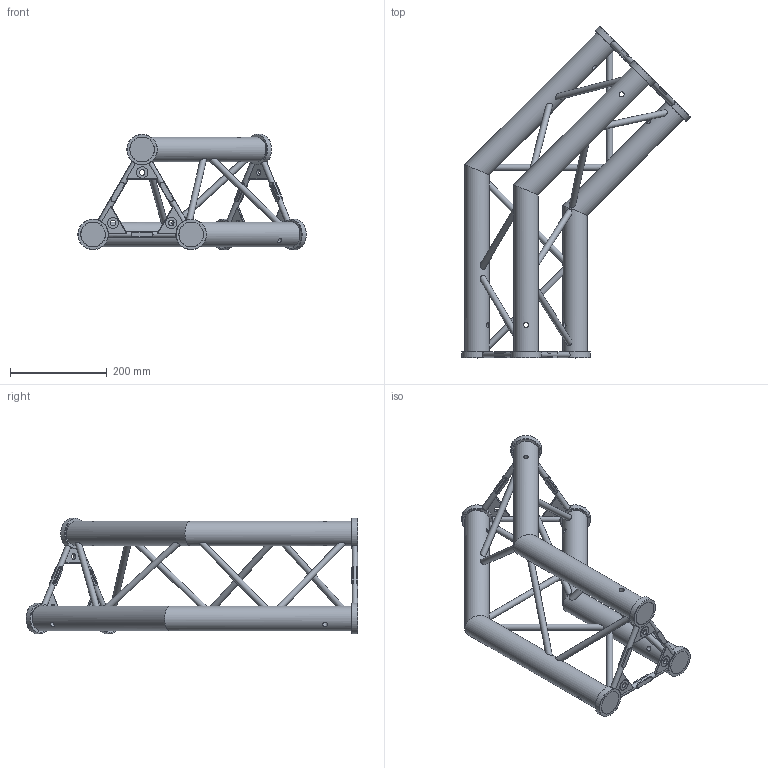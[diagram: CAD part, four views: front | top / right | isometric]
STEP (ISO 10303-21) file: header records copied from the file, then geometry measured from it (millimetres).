
FILE_DESCRIPTION(/* description */ (''),/* implementation_level */ '2;1');
FILE_NAME(/* name */ 'C:\Users\stephan\Desktop\A03\Corners\112030018.stp',/* time_stamp */ '2016-02-12T14:56:08+01:00',/* author */ ('Stephan'),/* organization */ (''),/* preprocessor_version */ 'ST-DEVELOPER v15.6',/* originating_system */ 'Autodesk Inventor 2015',/* authorisation */ '');
FILE_SCHEMA (('AUTOMOTIVE_DESIGN { 1 0 10303 214 3 1 1 }'));
Products named in the file (1): 160025872
Bounding box: 472.62 x 686.91 x 239.1 mm (x, y, z)
Volume: 4723446.7 mm3; surface area: 533662.2 mm2
Topology: 3 solids, 3 shells, 1948 faces, 5234 edges, 3486 vertices
Faces by surface type: plane 954, bspline 856, cylinder 114, cone 12, torus 12
Full cylindrical faces by diameter (mm): 10.5 x6, 11.5 x12, 12.7 x12, 23.5 x6, 50.8 x6, 51.3 x6, 63.3 x6
Entity records: 70256 total; most frequent: CARTESIAN_POINT 25897, ORIENTED_EDGE 10228, DIRECTION 5620, EDGE_CURVE 5114, VERTEX_POINT 3440, LINE 3094, VECTOR 3094, EDGE_LOOP 2276
